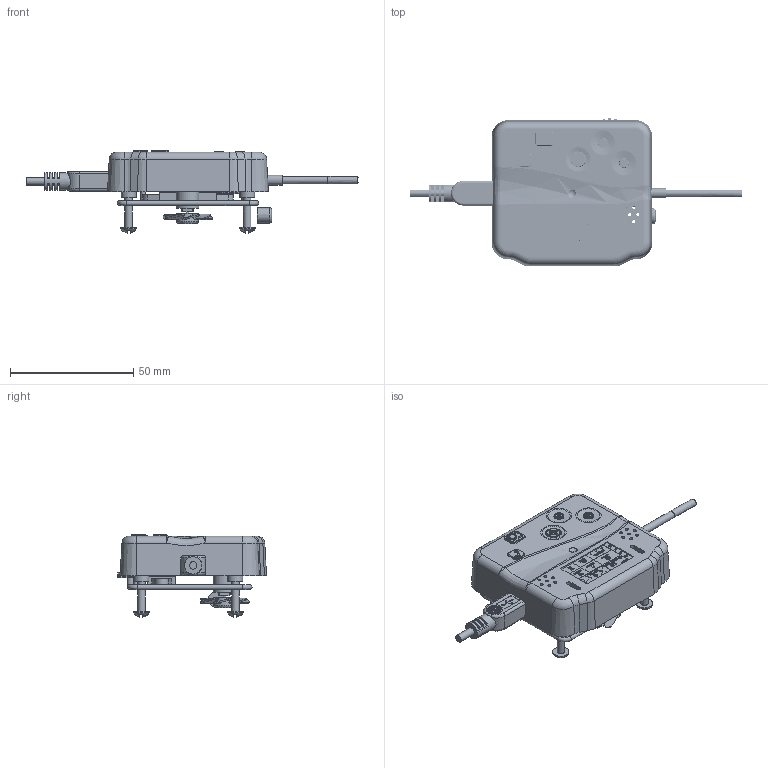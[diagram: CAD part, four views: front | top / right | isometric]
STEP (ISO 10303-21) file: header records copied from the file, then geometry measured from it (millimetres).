
FILE_DESCRIPTION(/* description */ (''),/* implementation_level */ '2;1');
FILE_NAME(/* name */ '样题4.stp',/* time_stamp */ '2021-12-05T11:04:38+08:00',/* author */ (''),/* organization */ (''),/* preprocessor_version */ 'ST-DEVELOPER v16',/* originating_system */ 'SIEMENS PLM Software NX 10.0',/* authorisation */ '');
FILE_SCHEMA (('AUTOMOTIVE_DESIGN { 1 0 10303 214 3 1 1 1 }'));
Products named in the file (23): 拨轮按键; 按键电路板; 固定柱01; 电路板; 按键; 固定柱02; 紧固螺钉01; 紧固螺钉02; 紧固螺钉04; 紧固螺钉03; 风扇; 关机键; 确定和方向键; 电子元件; 行车记录仪屏幕; 静音键; 耳机线; 电话按键; 保护套01; 前盖; 相机按键; USB线; 样题4
Assembly tree (22 placements, depth 2):
  样题4
    USB线
    相机按键
    前盖
    保护套01
    电话按键
    耳机线
    静音键
    行车记录仪屏幕
    电子元件
    确定和方向键
    关机键
    风扇
    紧固螺钉03
    紧固螺钉04
    紧固螺钉02
    紧固螺钉01
    固定柱02
    按键
    电路板
    固定柱01
    按键电路板
    拨轮按键
Bounding box: 134.44 x 60.33 x 33.24 mm (x, y, z)
Volume: 27109.8 mm3; surface area: 30713.7 mm2
Topology: 22 solids, 23 shells, 3081 faces, 8130 edges, 5392 vertices
Faces by surface type: plane 2010, cylinder 770, extrusion 126, bspline 65, torus 56, cone 25, sphere 15, revolution 14
Full cylindrical faces by diameter (mm): 0.032 x1, 0.116 x1, 0.197 x1, 0.336 x1, 0.523 x1, 0.543 x1, 0.878 x1, 1.142 x1, 1.2 x14, 1.369 x2, 1.705 x1, 1.825 x2, 1.932 x1, 2.428 x1, 2.469 x1, 2.603 x1, 2.793 x1, 2.892 x1, 2.901 x1, 2.91 x3, 3 x86, 3.042 x1, 3.206 x1, 3.208 x1, 3.228 x1, 3.4 x4, 3.5 x2, 3.881 x2, 4 x1, 4.081 x2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
Entity records: 127043 total; most frequent: CARTESIAN_POINT 52463, ORIENTED_EDGE 15482, DIRECTION 14122, EDGE_CURVE 7741, VECTOR 5608, LINE 5482, VERTEX_POINT 5191, AXIS2_PLACEMENT_3D 4250
